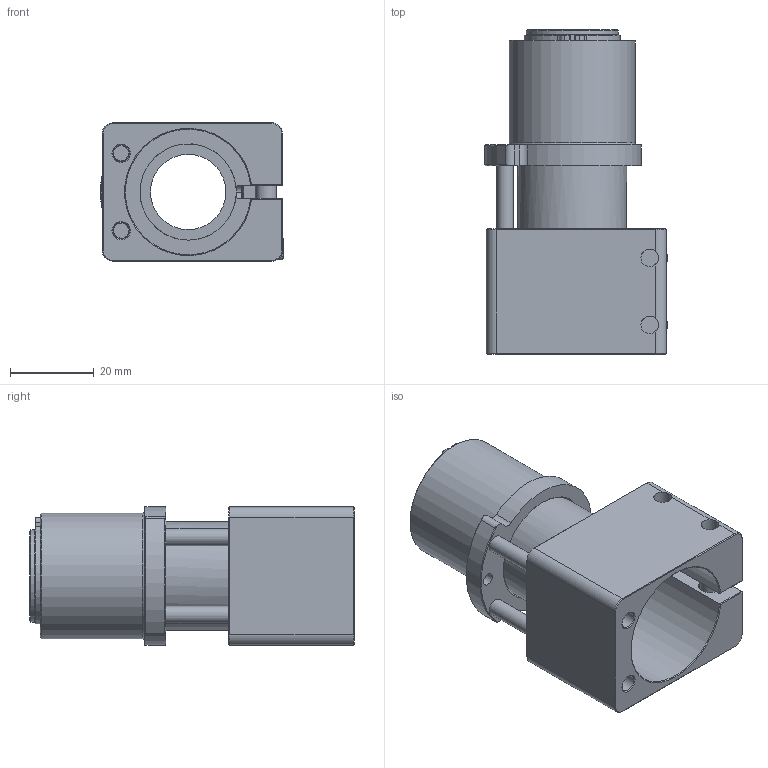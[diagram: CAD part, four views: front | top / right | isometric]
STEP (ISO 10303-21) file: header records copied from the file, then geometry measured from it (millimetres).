
FILE_DESCRIPTION(/* description */ (''),/* implementation_level */ '2;1');
FILE_NAME(/* name */ 'GSP-3030.stp',/* time_stamp */ '2022-04-20T16:35:52+08:00',/* author */ (''),/* organization */ (''),/* preprocessor_version */ 'ST-DEVELOPER v16',/* originating_system */ 'SIEMENS PLM Software NX 10.0',/* authorisation */ '');
FILE_SCHEMA (('AUTOMOTIVE_DESIGN { 1 0 10303 214 3 1 1 1 }'));
Length unit declared in the file: millimetre
Products named in the file (1): Admi0E2CCB31mqdi
Bounding box: 43.69 x 77.5 x 33 mm (x, y, z)
Volume: 37676.7 mm3; surface area: 20347.3 mm2
Topology: 1 solids, 3 shells, 188 faces, 463 edges, 288 vertices
Faces by surface type: plane 106, cylinder 46, cone 27, bspline 6, torus 3
Full cylindrical faces by diameter (mm): 1.2 x2, 3 x1, 4 x6, 4.2 x2, 5 x2, 5.5 x2, 8.5 x2, 18 x1, 21 x1, 22 x2, 23 x1, 26 x1, 30 x1
Entity records: 7362 total; most frequent: CARTESIAN_POINT 1836, DIRECTION 865, ORIENTED_EDGE 806, EDGE_CURVE 403, AXIS2_PLACEMENT_3D 320, VERTEX_POINT 267, EDGE_LOOP 248, LINE 225
